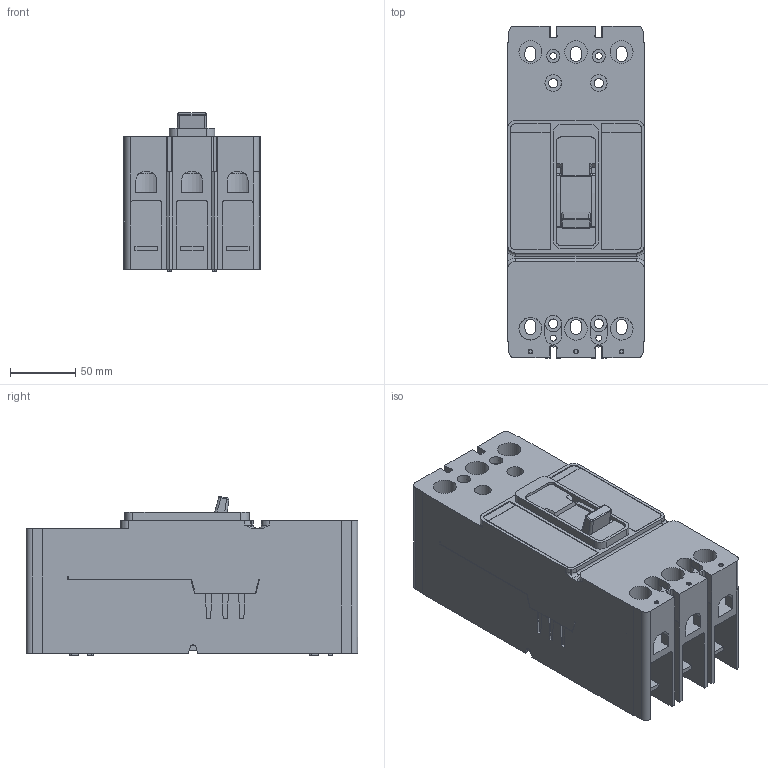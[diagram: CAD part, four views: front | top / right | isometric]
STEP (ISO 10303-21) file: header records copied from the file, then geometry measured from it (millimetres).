
FILE_DESCRIPTION((''),'2;1');
FILE_NAME('C:\temp\HJD2_.stp','2015-11-02T10:20:16',('e9952678'),(''),'Autodesk Inventor 2013','Autodesk Inventor 2013','');
FILE_SCHEMA(('AUTOMOTIVE_DESIGN { 1 0 10303 214 1 1 1 1 }'));
Length unit declared in the file: inch
Products named in the file (1): HJD2_
Bounding box: 104.78 x 254 x 121.44 mm (x, y, z)
Volume: 2168087.2 mm3; surface area: 227138.9 mm2
Topology: 1 solids, 10 shells, 888 faces, 2439 edges, 1609 vertices
Faces by surface type: plane 673, cylinder 201, cone 6, bspline 4, torus 4
Full cylindrical faces by diameter (mm): 2.794 x3, 3.556 x3, 4.572 x2, 5.08 x2, 5.156 x3, 5.309 x4, 5.563 x4, 6.35 x7, 6.756 x3, 7.137 x4, 7.925 x6, 8.077 x2, 10.033 x2, 10.16 x3, 12.7 x6, 17.475 x12
Entity records: 28615 total; most frequent: CARTESIAN_POINT 5111, ORIENTED_EDGE 4664, DIRECTION 4572, EDGE_CURVE 2332, VECTOR 1790, LINE 1790, VERTEX_POINT 1574, AXIS2_PLACEMENT_3D 1391
